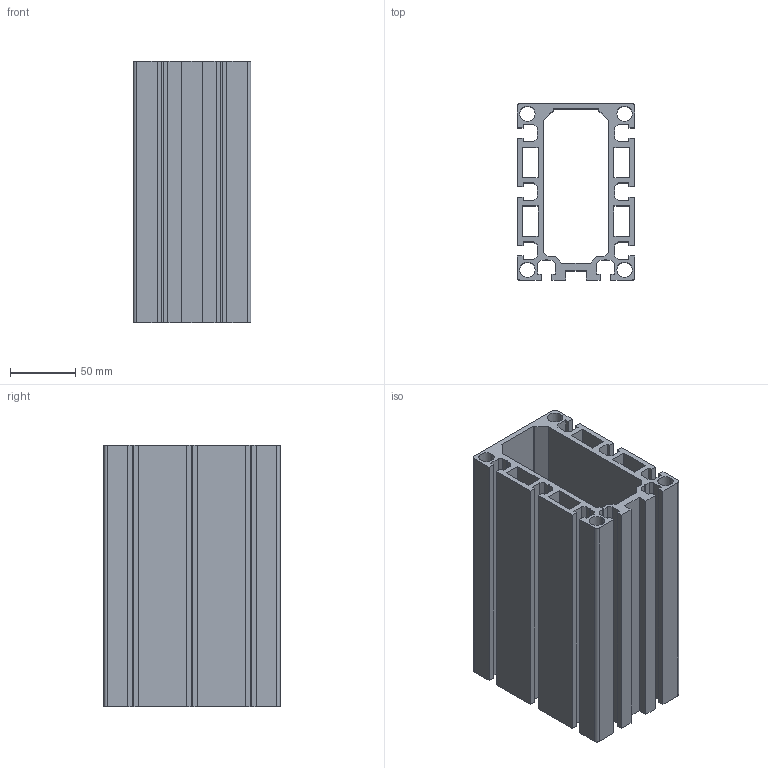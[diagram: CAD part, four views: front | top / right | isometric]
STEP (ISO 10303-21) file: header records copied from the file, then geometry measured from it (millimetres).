
FILE_DESCRIPTION (( 'STEP AP203' ), '1' );
FILE_NAME ('013983 REF 90135.STEP', '2015-12-01T11:51:16', ( '' ), ( '' ), 'SwSTEP 2.0', 'SolidWorks 2015', '' );
FILE_SCHEMA (( 'CONFIG_CONTROL_DESIGN' ));
Length unit declared in the file: millimetre
Products named in the file (1): 013983 REF 90135
Bounding box: 90 x 135 x 200 mm (x, y, z)
Volume: 671309.4 mm3; surface area: 310668.1 mm2
Topology: 1 solids, 1 shells, 151 faces, 447 edges, 298 vertices
Faces by surface type: plane 128, cylinder 23
Entity records: 5100 total; most frequent: CARTESIAN_POINT 897, ORIENTED_EDGE 894, DIRECTION 797, EDGE_CURVE 447, VECTOR 401, LINE 401, VERTEX_POINT 298, AXIS2_PLACEMENT_3D 198
